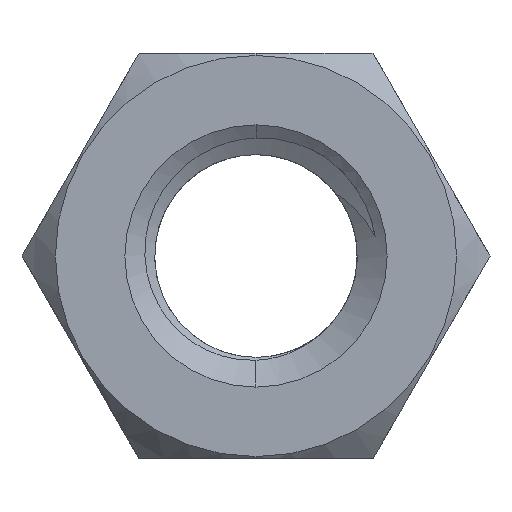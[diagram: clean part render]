
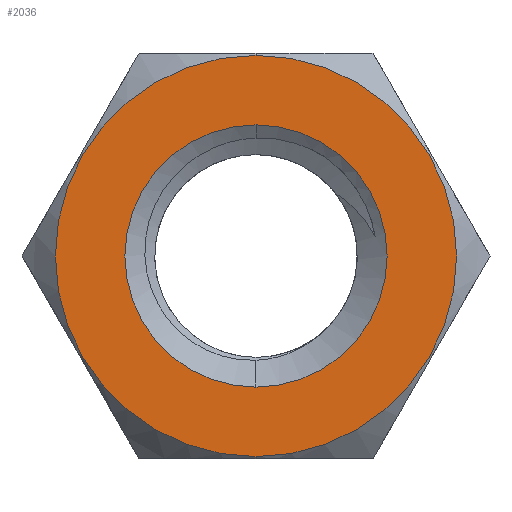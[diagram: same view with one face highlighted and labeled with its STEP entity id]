
A CAD part, front view. The second image highlights one B-rep face of the part: STEP entity #2036.
In plain terms, the highlighted planar face has unit normal (0, -1, 0).
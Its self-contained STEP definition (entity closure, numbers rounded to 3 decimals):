
#51 = CARTESIAN_POINT ( 'NONE',  ( 0., -4., 8.415 ) ) ;
#78 = EDGE_CURVE ( 'NONE', #2143, #2170, #2552, .T. ) ;
#242 = PLANE ( 'NONE',  #1425 ) ;
#295 = FACE_OUTER_BOUND ( 'NONE', #1160, .T. ) ;
#381 = AXIS2_PLACEMENT_3D ( 'NONE', #1840, #3051, #1553 ) ;
#452 = CIRCLE ( 'NONE', #1420, 5.5 ) ;
#537 = CARTESIAN_POINT ( 'NONE',  ( 0., -4., 0. ) ) ;
#553 = DIRECTION ( 'NONE',  ( 0., -1., 0. ) ) ;
#587 = ORIENTED_EDGE ( 'NONE', *, *, #78, .T. ) ;
#629 = CIRCLE ( 'NONE', #3384, 8.415 ) ;
#761 = CARTESIAN_POINT ( 'NONE',  ( 0., -4., 5.5 ) ) ;
#1160 = EDGE_LOOP ( 'NONE', ( #1312, #587 ) ) ;
#1256 = VERTEX_POINT ( 'NONE', #761 ) ;
#1312 = ORIENTED_EDGE ( 'NONE', *, *, #1383, .T. ) ;
#1383 = EDGE_CURVE ( 'NONE', #2170, #2143, #629, .T. ) ;
#1420 = AXIS2_PLACEMENT_3D ( 'NONE', #537, #553, #2998 ) ;
#1425 = AXIS2_PLACEMENT_3D ( 'NONE', #2440, #2176, #2770 ) ;
#1553 = DIRECTION ( 'NONE',  ( 0., 0., -1. ) ) ;
#1641 = ORIENTED_EDGE ( 'NONE', *, *, #2762, .F. ) ;
#1677 = AXIS2_PLACEMENT_3D ( 'NONE', #3543, #2035, #3475 ) ;
#1840 = CARTESIAN_POINT ( 'NONE',  ( 0., -4., 0. ) ) ;
#2035 = DIRECTION ( 'NONE',  ( 0., -1., 0. ) ) ;
#2036 = ADVANCED_FACE ( 'NONE', ( #2983, #295 ), #242, .F. ) ;
#2143 = VERTEX_POINT ( 'NONE', #2753 ) ;
#2170 = VERTEX_POINT ( 'NONE', #51 ) ;
#2176 = DIRECTION ( 'NONE',  ( 0., 1., 0. ) ) ;
#2177 = ORIENTED_EDGE ( 'NONE', *, *, #2479, .F. ) ;
#2183 = CARTESIAN_POINT ( 'NONE',  ( 0., -4., -5.5 ) ) ;
#2307 = DIRECTION ( 'NONE',  ( 0., -1., 0. ) ) ;
#2330 = DIRECTION ( 'NONE',  ( 0., 0., -1. ) ) ;
#2378 = CIRCLE ( 'NONE', #1677, 5.5 ) ;
#2440 = CARTESIAN_POINT ( 'NONE',  ( 0., -4., 0. ) ) ;
#2479 = EDGE_CURVE ( 'NONE', #1256, #3788, #2378, .T. ) ;
#2552 = CIRCLE ( 'NONE', #381, 8.415 ) ;
#2753 = CARTESIAN_POINT ( 'NONE',  ( 0., -4., -8.415 ) ) ;
#2762 = EDGE_CURVE ( 'NONE', #3788, #1256, #452, .T. ) ;
#2770 = DIRECTION ( 'NONE',  ( 0., 0., 1. ) ) ;
#2983 = FACE_BOUND ( 'NONE', #3764, .T. ) ;
#2998 = DIRECTION ( 'NONE',  ( 0., 0., -1. ) ) ;
#3051 = DIRECTION ( 'NONE',  ( 0., -1., 0. ) ) ;
#3305 = CARTESIAN_POINT ( 'NONE',  ( 0., -4., 0. ) ) ;
#3384 = AXIS2_PLACEMENT_3D ( 'NONE', #3305, #2307, #2330 ) ;
#3475 = DIRECTION ( 'NONE',  ( 0., 0., -1. ) ) ;
#3543 = CARTESIAN_POINT ( 'NONE',  ( 0., -4., 0. ) ) ;
#3764 = EDGE_LOOP ( 'NONE', ( #2177, #1641 ) ) ;
#3788 = VERTEX_POINT ( 'NONE', #2183 ) ;
